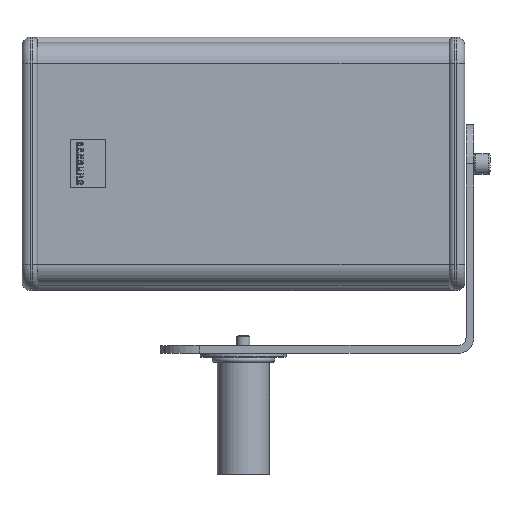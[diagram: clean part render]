
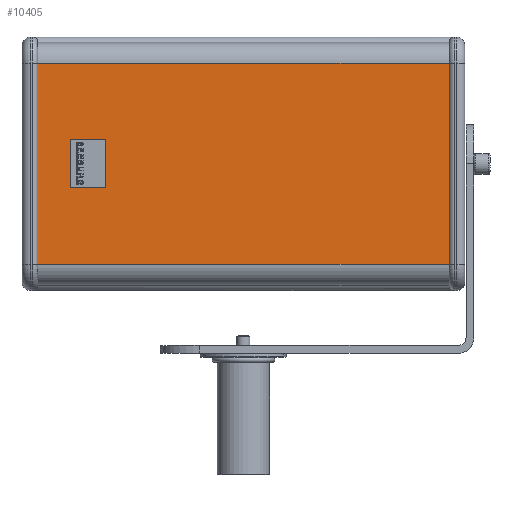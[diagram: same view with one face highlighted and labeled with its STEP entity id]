
A CAD part, top view. The second image highlights one B-rep face of the part: STEP entity #10405.
In plain terms, the highlighted planar face has unit normal (0, 0, 1) as drawn and (0, -1, 0) by its records, which use the part's own axes.
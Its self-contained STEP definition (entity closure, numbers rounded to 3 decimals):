
#4184 = DIRECTION ( 'NONE',  ( 0., 0., -1. ) ) ;
#4185 = VECTOR ( 'NONE', #4184, 1000. ) ;
#4186 = CARTESIAN_POINT ( 'NONE',  ( 12., 29.327, -81.071 ) ) ;
#4187 = LINE ( 'NONE', #4186, #4185 ) ;
#4188 = DIRECTION ( 'NONE',  ( -1., 0., 0. ) ) ;
#4189 = VECTOR ( 'NONE', #4188, 1000. ) ;
#4190 = CARTESIAN_POINT ( 'NONE',  ( 12., 29.327, -171. ) ) ;
#4191 = LINE ( 'NONE', #4190, #4189 ) ;
#4192 = CARTESIAN_POINT ( 'NONE',  ( 12., 29.327, -171. ) ) ;
#4193 = CARTESIAN_POINT ( 'NONE',  ( 12., 29.327, -17. ) ) ;
#4209 = CARTESIAN_POINT ( 'NONE',  ( 327., 29.327, -171. ) ) ;
#4214 = AXIS2_PLACEMENT_3D ( 'NONE', #4279, #4278, #4277 ) ;
#4216 = PLANE ( 'NONE',  #4214 ) ;
#4217 = FACE_OUTER_BOUND ( 'NONE', #10370, .T. ) ;
#4277 = DIRECTION ( 'NONE',  ( 0., 0., -1. ) ) ;
#4278 = DIRECTION ( 'NONE',  ( 0., -1., 0. ) ) ;
#4279 = CARTESIAN_POINT ( 'NONE',  ( 12., 29.327, -171. ) ) ;
#4296 = DIRECTION ( 'NONE',  ( 1., 0., 0. ) ) ;
#4297 = VECTOR ( 'NONE', #4296, 1000. ) ;
#4298 = CARTESIAN_POINT ( 'NONE',  ( 12., 29.327, -17. ) ) ;
#4299 = LINE ( 'NONE', #4298, #4297 ) ;
#4469 = CARTESIAN_POINT ( 'NONE',  ( 327., 29.327, -17. ) ) ;
#4513 = DIRECTION ( 'NONE',  ( 0., 0., -1. ) ) ;
#4514 = VECTOR ( 'NONE', #4513, 1000. ) ;
#4515 = CARTESIAN_POINT ( 'NONE',  ( 327., 29.327, -1. ) ) ;
#4516 = LINE ( 'NONE', #4515, #4514 ) ;
#10354 = VERTEX_POINT ( 'NONE', #4209 ) ;
#10362 = ORIENTED_EDGE ( 'NONE', *, *, #10367, .T. ) ;
#10363 = VERTEX_POINT ( 'NONE', #4193 ) ;
#10365 = VERTEX_POINT ( 'NONE', #4192 ) ;
#10366 = EDGE_CURVE ( 'NONE', #10354, #10365, #4191, .T. ) ;
#10367 = EDGE_CURVE ( 'NONE', #10363, #10365, #4187, .T. ) ;
#10369 = ORIENTED_EDGE ( 'NONE', *, *, #10366, .F. ) ;
#10370 = EDGE_LOOP ( 'NONE', ( #10362, #10369, #10507, #10433 ) ) ;
#10405 = ADVANCED_FACE ( 'NONE', ( #4217 ), #4216, .T. ) ;
#10430 = EDGE_CURVE ( 'NONE', #10363, #10508, #4299, .T. ) ;
#10433 = ORIENTED_EDGE ( 'NONE', *, *, #10430, .F. ) ;
#10507 = ORIENTED_EDGE ( 'NONE', *, *, #10525, .F. ) ;
#10508 = VERTEX_POINT ( 'NONE', #4469 ) ;
#10525 = EDGE_CURVE ( 'NONE', #10508, #10354, #4516, .T. ) ;
